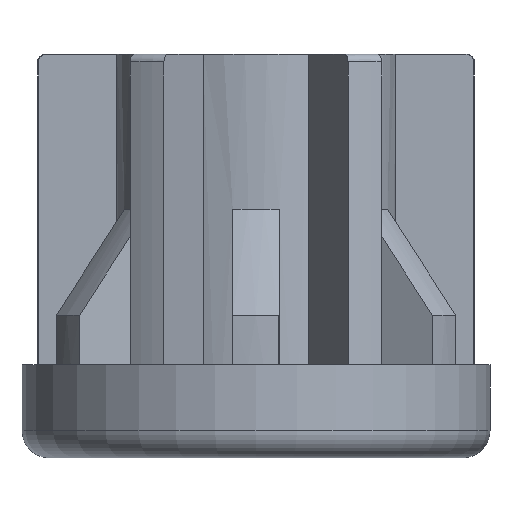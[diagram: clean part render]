
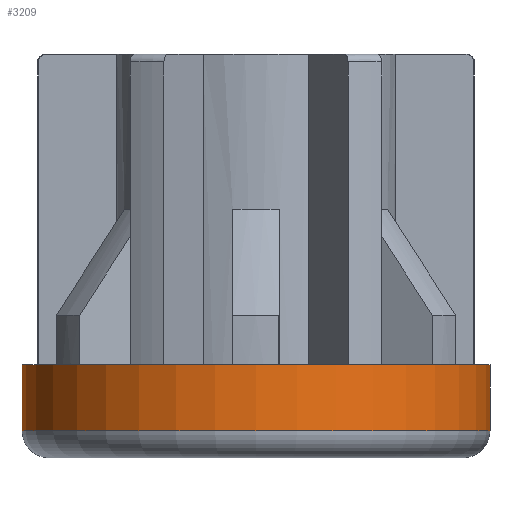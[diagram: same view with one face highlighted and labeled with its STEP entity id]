
A CAD part, front view. The second image highlights one B-rep face of the part: STEP entity #3209.
In plain terms, the highlighted cylindrical face has radius 30.15 mm (diameter 60.3 mm), a partial arc.
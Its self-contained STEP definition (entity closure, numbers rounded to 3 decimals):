
#19 = DIRECTION ( 'NONE',  ( 0., 0., -1. ) ) ;
#191 = EDGE_CURVE ( 'NONE', #4087, #3710, #2755, .T. ) ;
#225 = LINE ( 'NONE', #509, #4338 ) ;
#348 = AXIS2_PLACEMENT_3D ( 'NONE', #4205, #4186, #3592 ) ;
#509 = CARTESIAN_POINT ( 'NONE',  ( 30.058, 0.005, 0. ) ) ;
#518 = ORIENTED_EDGE ( 'NONE', *, *, #1679, .F. ) ;
#748 = VERTEX_POINT ( 'NONE', #822 ) ;
#795 = ORIENTED_EDGE ( 'NONE', *, *, #191, .F. ) ;
#822 = CARTESIAN_POINT ( 'NONE',  ( 30.058, 0.005, 0. ) ) ;
#889 = DIRECTION ( 'NONE',  ( 0., 0., 1. ) ) ;
#1040 = CARTESIAN_POINT ( 'NONE',  ( -30.242, 0.005, 0. ) ) ;
#1057 = CIRCLE ( 'NONE', #348, 30.15 ) ;
#1261 = CARTESIAN_POINT ( 'NONE',  ( -30.242, 0.005, 0. ) ) ;
#1459 = DIRECTION ( 'NONE',  ( 0., 0., -1. ) ) ;
#1512 = VECTOR ( 'NONE', #889, 1000. ) ;
#1679 = EDGE_CURVE ( 'NONE', #3710, #2592, #4100, .T. ) ;
#1741 = AXIS2_PLACEMENT_3D ( 'NONE', #2766, #19, #3795 ) ;
#1978 = EDGE_LOOP ( 'NONE', ( #518, #795, #2303, #4299 ) ) ;
#2022 = DIRECTION ( 'NONE',  ( -1., 0., 0. ) ) ;
#2303 = ORIENTED_EDGE ( 'NONE', *, *, #2454, .F. ) ;
#2454 = EDGE_CURVE ( 'NONE', #748, #4087, #225, .T. ) ;
#2464 = AXIS2_PLACEMENT_3D ( 'NONE', #4111, #2774, #2022 ) ;
#2592 = VERTEX_POINT ( 'NONE', #1040 ) ;
#2593 = CARTESIAN_POINT ( 'NONE',  ( -30.242, 0.005, -8.5 ) ) ;
#2755 = CIRCLE ( 'NONE', #1741, 30.15 ) ;
#2766 = CARTESIAN_POINT ( 'NONE',  ( -0.092, 0.005, -8.5 ) ) ;
#2774 = DIRECTION ( 'NONE',  ( 0., 0., -1. ) ) ;
#3209 = ADVANCED_FACE ( 'NONE', ( #3753 ), #3919, .T. ) ;
#3227 = CARTESIAN_POINT ( 'NONE',  ( 30.058, 0.005, -8.5 ) ) ;
#3592 = DIRECTION ( 'NONE',  ( -1., 0., 0. ) ) ;
#3612 = EDGE_CURVE ( 'NONE', #748, #2592, #1057, .T. ) ;
#3710 = VERTEX_POINT ( 'NONE', #2593 ) ;
#3753 = FACE_OUTER_BOUND ( 'NONE', #1978, .T. ) ;
#3795 = DIRECTION ( 'NONE',  ( -1., 0., 0. ) ) ;
#3919 = CYLINDRICAL_SURFACE ( 'NONE', #2464, 30.15 ) ;
#4087 = VERTEX_POINT ( 'NONE', #3227 ) ;
#4100 = LINE ( 'NONE', #1261, #1512 ) ;
#4111 = CARTESIAN_POINT ( 'NONE',  ( -0.092, 0.005, 0. ) ) ;
#4186 = DIRECTION ( 'NONE',  ( 0., 0., -1. ) ) ;
#4205 = CARTESIAN_POINT ( 'NONE',  ( -0.092, 0.005, 0. ) ) ;
#4299 = ORIENTED_EDGE ( 'NONE', *, *, #3612, .T. ) ;
#4338 = VECTOR ( 'NONE', #1459, 1000. ) ;
